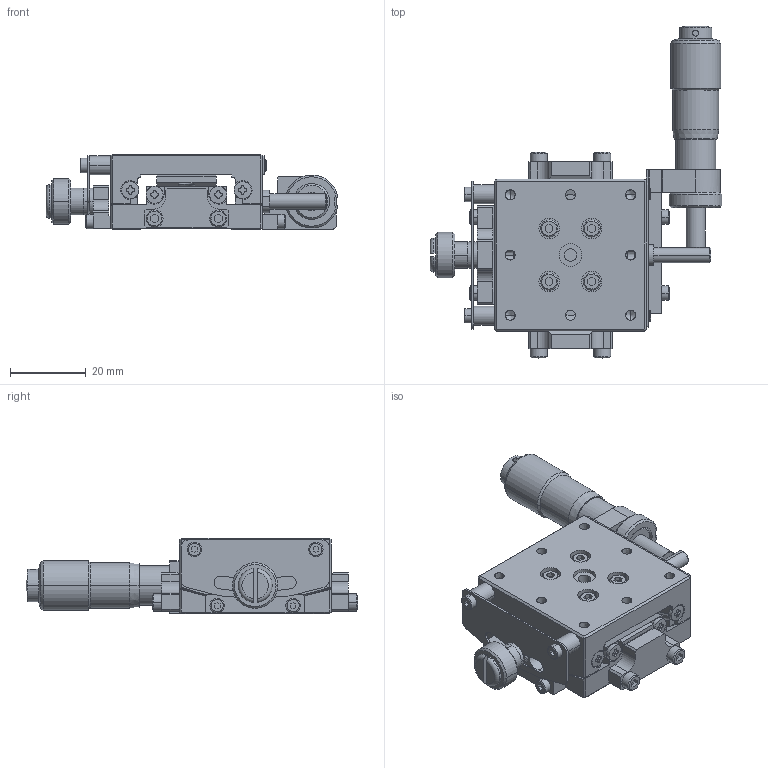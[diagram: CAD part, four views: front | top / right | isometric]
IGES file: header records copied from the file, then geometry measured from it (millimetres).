
Global section: file name: No Iges File Name specified; native system: AutoDesk Inventor R12.0; preprocessor: AutoDesk Inventor Iges Exporter R12.0; author: No Author specified; organization: No Organization specified; date: 20081126.151718; units: millimetre
Bounding box: 76.93 x 87.47 x 20 mm (x, y, z)
Volume: 32729.9 mm3; surface area: 24583.9 mm2
Topology: 2 solids, 32 shells, 1190 faces, 2882 edges, 1816 vertices
Faces by surface type: plane 546, bspline 246, cylinder 191, cone 104, revolution 88, sphere 9, torus 6
